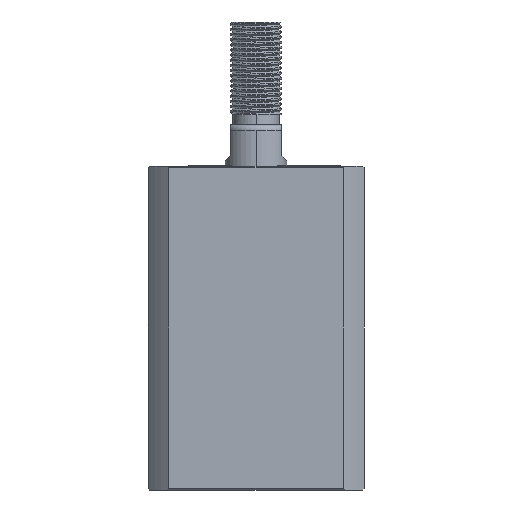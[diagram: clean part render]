
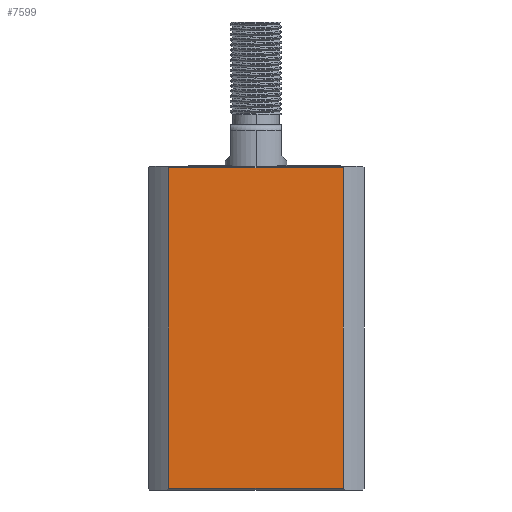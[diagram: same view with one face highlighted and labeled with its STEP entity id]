
A CAD part, left-side view. The second image highlights one B-rep face of the part: STEP entity #7599.
In plain terms, the highlighted planar face has unit normal (-1, 0, 0).
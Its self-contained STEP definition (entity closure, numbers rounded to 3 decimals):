
#286 = EDGE_LOOP ( 'NONE', ( #7294, #6945, #10224, #4238 ) ) ;
#325 = EDGE_CURVE ( 'NONE', #2084, #14920, #5896, .T. ) ;
#350 = CARTESIAN_POINT ( 'NONE',  ( -21., 21., 0.3 ) ) ;
#752 = DIRECTION ( 'NONE',  ( 0., -1., 0. ) ) ;
#1768 = CARTESIAN_POINT ( 'NONE',  ( -21., -16.971, 62.7 ) ) ;
#2084 = VERTEX_POINT ( 'NONE', #10463 ) ;
#2762 = PLANE ( 'NONE',  #12864 ) ;
#3708 = CARTESIAN_POINT ( 'NONE',  ( -21., -16.971, 0. ) ) ;
#3832 = CARTESIAN_POINT ( 'NONE',  ( -21., 16.971, 0. ) ) ;
#3875 = CARTESIAN_POINT ( 'NONE',  ( -21., 21., 63. ) ) ;
#3923 = DIRECTION ( 'NONE',  ( 1., 0., 0. ) ) ;
#4238 = ORIENTED_EDGE ( 'NONE', *, *, #7209, .T. ) ;
#4503 = DIRECTION ( 'NONE',  ( 0., 1., 0. ) ) ;
#4865 = DIRECTION ( 'NONE',  ( 0., 0., -1. ) ) ;
#5896 = LINE ( 'NONE', #350, #11705 ) ;
#6614 = VECTOR ( 'NONE', #9545, 1000. ) ;
#6945 = ORIENTED_EDGE ( 'NONE', *, *, #325, .T. ) ;
#7209 = EDGE_CURVE ( 'NONE', #10940, #9106, #7663, .T. ) ;
#7287 = VECTOR ( 'NONE', #4503, 1000. ) ;
#7294 = ORIENTED_EDGE ( 'NONE', *, *, #14720, .F. ) ;
#7599 = ADVANCED_FACE ( 'NONE', ( #8192 ), #2762, .F. ) ;
#7663 = LINE ( 'NONE', #13699, #7287 ) ;
#8192 = FACE_OUTER_BOUND ( 'NONE', #286, .T. ) ;
#9106 = VERTEX_POINT ( 'NONE', #12277 ) ;
#9545 = DIRECTION ( 'NONE',  ( 0., 0., 1. ) ) ;
#9708 = LINE ( 'NONE', #3832, #6614 ) ;
#10224 = ORIENTED_EDGE ( 'NONE', *, *, #13936, .F. ) ;
#10463 = CARTESIAN_POINT ( 'NONE',  ( -21., 16.971, 0.3 ) ) ;
#10940 = VERTEX_POINT ( 'NONE', #1768 ) ;
#10985 = VECTOR ( 'NONE', #4865, 1000. ) ;
#11705 = VECTOR ( 'NONE', #752, 1000. ) ;
#12009 = DIRECTION ( 'NONE',  ( 0., 1., 0. ) ) ;
#12277 = CARTESIAN_POINT ( 'NONE',  ( -21., 16.971, 62.7 ) ) ;
#12412 = CARTESIAN_POINT ( 'NONE',  ( -21., -16.971, 0.3 ) ) ;
#12864 = AXIS2_PLACEMENT_3D ( 'NONE', #3875, #3923, #12009 ) ;
#13699 = CARTESIAN_POINT ( 'NONE',  ( -21., 21., 62.7 ) ) ;
#13936 = EDGE_CURVE ( 'NONE', #10940, #14920, #14360, .T. ) ;
#14360 = LINE ( 'NONE', #3708, #10985 ) ;
#14720 = EDGE_CURVE ( 'NONE', #2084, #9106, #9708, .T. ) ;
#14920 = VERTEX_POINT ( 'NONE', #12412 ) ;
